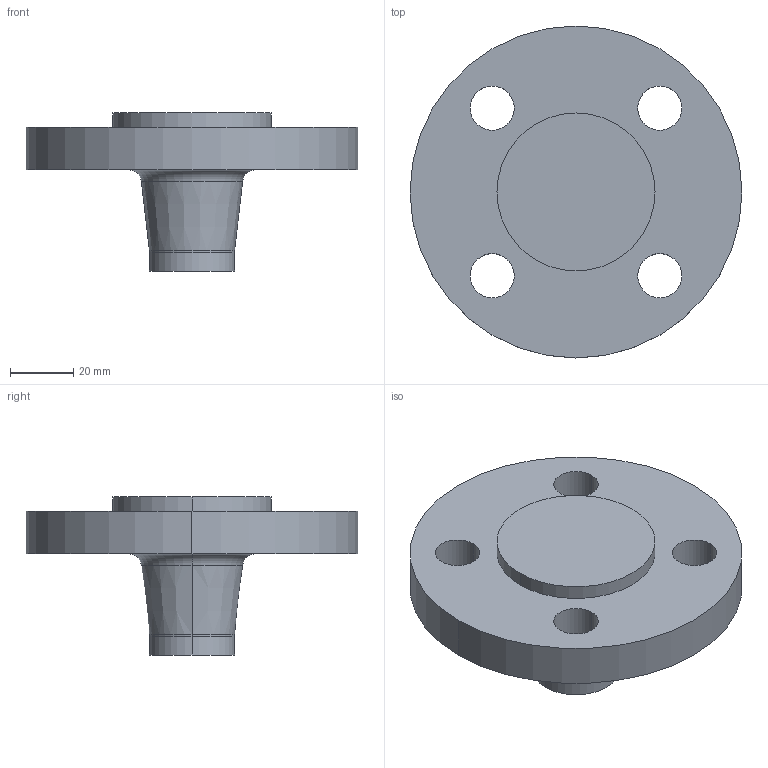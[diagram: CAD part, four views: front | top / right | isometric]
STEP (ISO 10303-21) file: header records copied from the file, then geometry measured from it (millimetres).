
FILE_DESCRIPTION (( 'STEP AP214' ), '1' );
FILE_NAME ('PN40 DN20 Type 21(ii) - Type E Face.STEP', '2018-12-29T16:11:45', ( '' ), ( '' ), 'SwSTEP 2.0', 'SolidWorks 2019', '' );
FILE_SCHEMA (( 'AUTOMOTIVE_DESIGN' ));
Length unit declared in the file: millimetre
Products named in the file (1): PN40 DN20 Type 21(ii) - Type E Face
Bounding box: 105 x 105 x 50 mm (x, y, z)
Volume: 139380 mm3; surface area: 26174.8 mm2
Topology: 1 solids, 1 shells, 24 faces, 54 edges, 34 vertices
Faces by surface type: cylinder 14, torus 4, plane 4, cone 2
Entity records: 738 total; most frequent: DIRECTION 142, CARTESIAN_POINT 113, ORIENTED_EDGE 108, AXIS2_PLACEMENT_3D 63, EDGE_CURVE 54, CIRCLE 38, EDGE_LOOP 34, VERTEX_POINT 34
